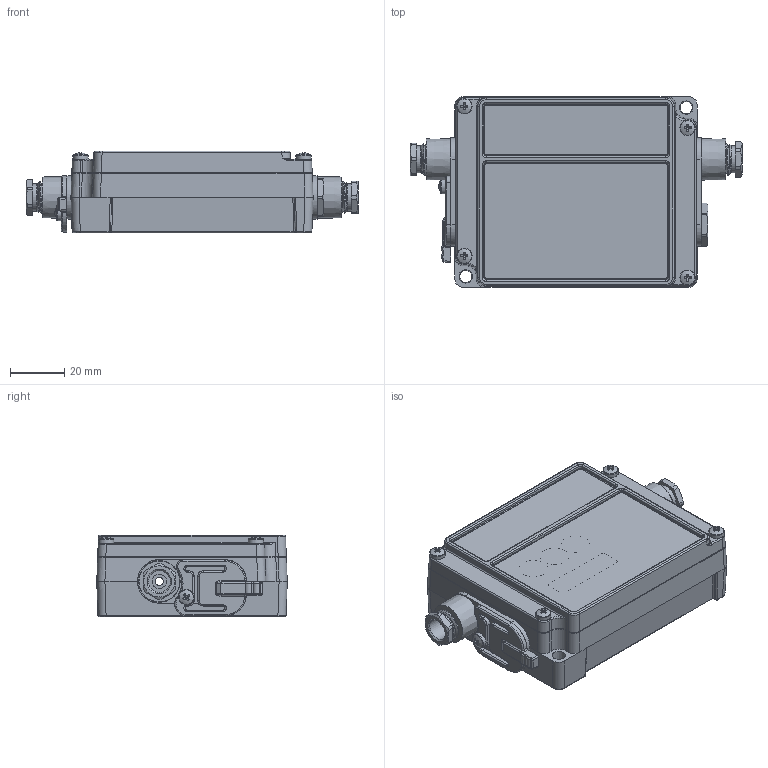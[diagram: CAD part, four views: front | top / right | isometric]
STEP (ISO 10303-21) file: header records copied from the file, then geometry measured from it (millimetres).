
FILE_DESCRIPTION (( 'STEP AP214' ), '1' );
FILE_NAME ('9C001 Box-CT-USB.STEP', '2021-02-03T15:34:26', ( '' ), ( '' ), 'SwSTEP 2.0', 'SolidWorks 2019', '' );
FILE_SCHEMA (( 'AUTOMOTIVE_DESIGN' ));
Length unit declared in the file: millimetre
Products named in the file (16): 1C001-4 Schale-USB; 61301 Linsenschraube DIN 7985 VZ M3x5_ISO 7045 - M3 x 4 - Z --- 4S; 1C008-1 Logo-Label-Optris; 1C704 Dichtkappe; 1C003 Fensterlabel_Fensterlabel; 9C001 Box-CT-USB; 64001-Verschlußschraube M12x1,5; 9C094-4 Unterschale CT-CTL-USB; 64002 Druckschraube M12x1,5; 61302 Linsenschraube DIN 7985 VZ M3x10; 63902 Dichtstopfen NBR Di3_63902 ID3; 9C012-X Deckel mit Fenster; 63903 Dichtstopfen NBR Di5_63903 ID 5; 1C006 Taststift; 61590  Scheibe DIN 125 A-5,3 VZ_DIN 125 A 5,3; 1C002-X Deckel
Assembly tree (26 placements, depth 3):
  9C001 Box-CT-USB
    9C094-4 Unterschale CT-CTL-USB
      1C001-4 Schale-USB
      64001-Verschlußschraube M12x1,5
      64002 Druckschraube M12x1,5
      1C704 Dichtkappe
      61301 Linsenschraube DIN 7985 VZ M3x5_ISO 7045 - M3 x 4 - Z --- 4S
      61590  Scheibe DIN 125 A-5,3 VZ_DIN 125 A 5,3  x3
      63903 Dichtstopfen NBR Di5_63903 ID 5
    61302 Linsenschraube DIN 7985 VZ M3x10  x4
    64002 Druckschraube M12x1,5
    9C012-X Deckel mit Fenster
      1C002-X Deckel
      1C006 Taststift  x3
      1C008-1 Logo-Label-Optris
      1C003 Fensterlabel_Fensterlabel
    63902 Dichtstopfen NBR Di3_63902 ID3
    61590  Scheibe DIN 125 A-5,3 VZ_DIN 125 A 5,3  x3
Bounding box: 122 x 70 x 30 mm (x, y, z)
Volume: 57602.4 mm3; surface area: 61266.3 mm2
Topology: 24 solids, 24 shells, 1514 faces, 3453 edges, 2011 vertices
Faces by surface type: cylinder 465, plane 388, cone 312, bspline 213, torus 120, sphere 16
Full cylindrical faces by diameter (mm): 2.5 x9, 3 x87, 4 x3, 5 x1, 5.3 x6, 5.6 x5, 7 x2, 8 x3, 9 x3, 10 x11, 10.2 x2, 10.5 x1
Entity records: 38621 total; most frequent: CARTESIAN_POINT 13631, ORIENTED_EDGE 5048, DIRECTION 4935, EDGE_CURVE 2524, AXIS2_PLACEMENT_3D 1985, VERTEX_POINT 1576, EDGE_LOOP 1408, FACE_OUTER_BOUND 1255
